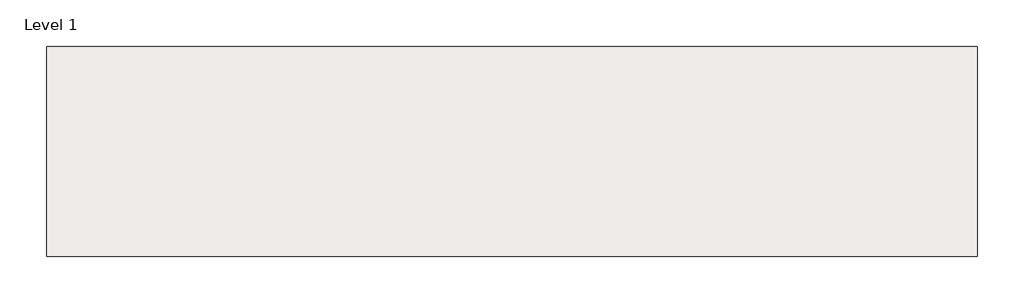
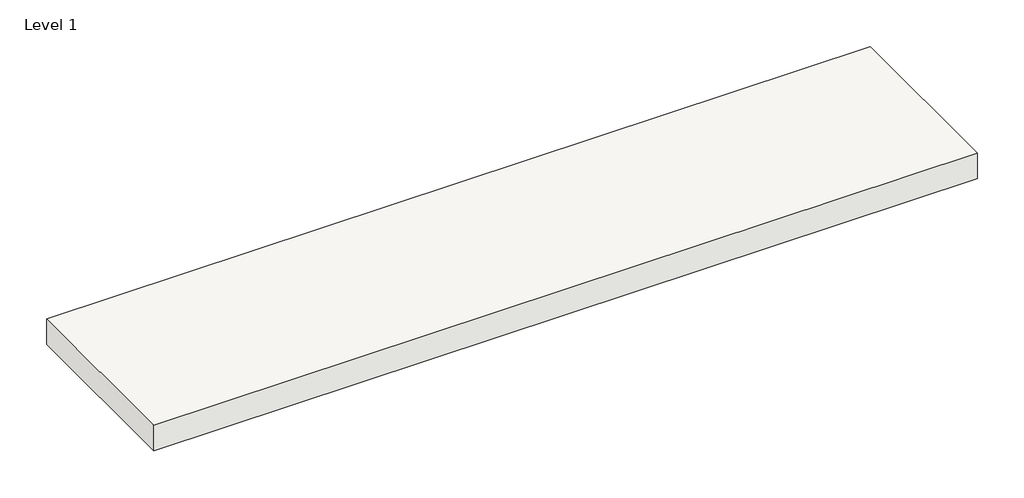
# One storey, incomplete: 1 slab.
"""IFC4 building model written with IfcOpenShell, lengths in millimetres."""

from ifc_helpers import new_model, si_unit, frame, origin, place, context, project, spatial, polyline, outline, extrude, element, save

model = new_model("IFC4")

# Units and contexts
model_context = context("Model", 3, world=origin())
ifc_project = project(units=[si_unit("LENGTHUNIT", "METRE", prefix="MILLI")], contexts=[model_context])

# Site, building, storey
site = spatial("IfcSite", under=ifc_project)
building = spatial("IfcBuilding", under=site)
storey = spatial("IfcBuildingStorey", under=building, Name="Level 1", Elevation=0.0)

# Slab
placement = place(None, origin())
element("IfcSlab", 1, ObjectType="Generic - 12\"", at=placement, inside=storey, context=model_context, shape_type="SweptSolid", body=[
    extrude(outline(polyline([(-9548.4242006, 14637.2598675), (-9548.4242006, 12537.2598675), (-18848.4242006, 12537.2598675), (-18848.4242006, 14637.2598675), (-9548.4242006, 14637.2598675)])), frame((0.0, 0.0, -304.8), z_axis=(0.0, 0.0, 1.0), x_axis=(1.0, 0.0, 0.0)), (0.0, 0.0, 1.0), 304.8),
])

save(model, "model.ifc")
